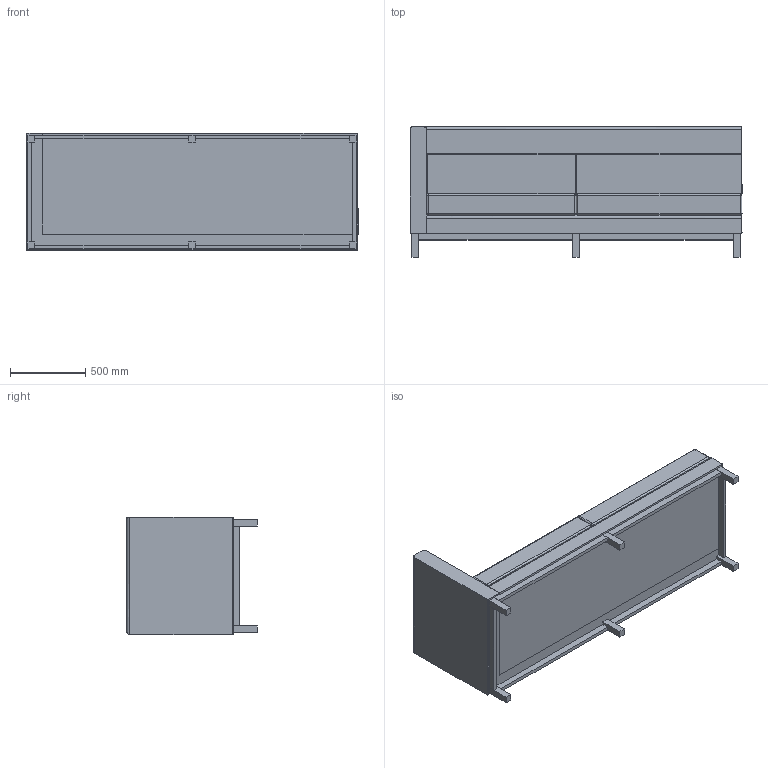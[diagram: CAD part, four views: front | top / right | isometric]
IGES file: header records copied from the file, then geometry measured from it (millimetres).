
Start section: SolidWorks IGES file using analytic representation for surfaces
Global section: file name: P:\3D CAD BLOCKS\ARTHUR CITYSCAPE\LB Plain Large RH\IGS\ART-LB-PLAIN-LARGE-ART-CITY-RH.IGS; native system: SolidWorks 2012; preprocessor: SolidWorks 2012; author: tom; date: 160523.093639; units: millimetre
Bounding box: 2210 x 868 x 780 mm (x, y, z)
Surface area: 14361703.8 mm2 (no closed solid volume)
Topology: 0 solids, 0 shells, 200 faces, 972 edges, 965 vertices
Faces by surface type: bspline 110, revolution 90
